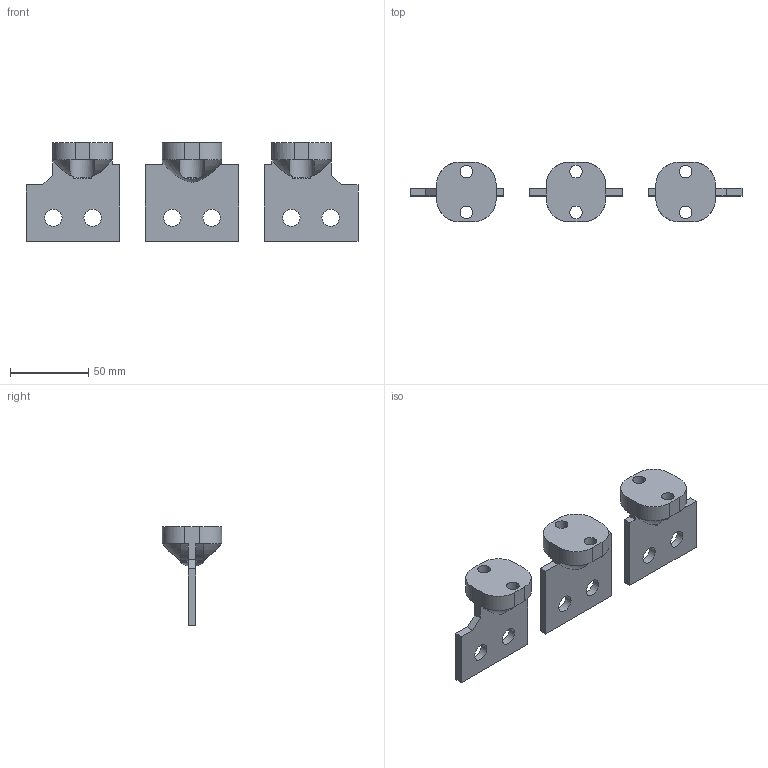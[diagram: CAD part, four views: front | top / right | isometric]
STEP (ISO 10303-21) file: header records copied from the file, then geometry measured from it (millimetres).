
FILE_DESCRIPTION(('STEP AP203'), '1');
FILE_NAME('雞碭噊 蜦謶賧艜. 5擤 瞂贂', '', ('UNSPECIFIED'), ('UNSPECIFIED'), 'C3D Converter', 'C3D Toolkit', '');
FILE_SCHEMA(('CONFIG_CONTROL_DESIGN'));
Length unit declared in the file: millimetre
Assembly tree (3 placements, depth 2):
  (unnamed)
    (unnamed)
    (unnamed)
    (unnamed)
Bounding box: 212 x 38 x 63 mm (x, y, z)
Volume: 91453.5 mm3; surface area: 33199.5 mm2
Topology: 3 solids, 3 shells, 152 faces, 408 edges, 262 vertices
Faces by surface type: plane 90, cylinder 30, bspline 22, torus 10
Full cylindrical faces by diameter (mm): 8 x6, 11 x6
Entity records: 9409 total; most frequent: CARTESIAN_POINT 4511, ORIENTED_EDGE 780, DIRECTION 600, EDGE_CURVE 390, VERTEX_POINT 256, AXIS2_PLACEMENT_3D 214, EDGE_LOOP 188, LINE 172
